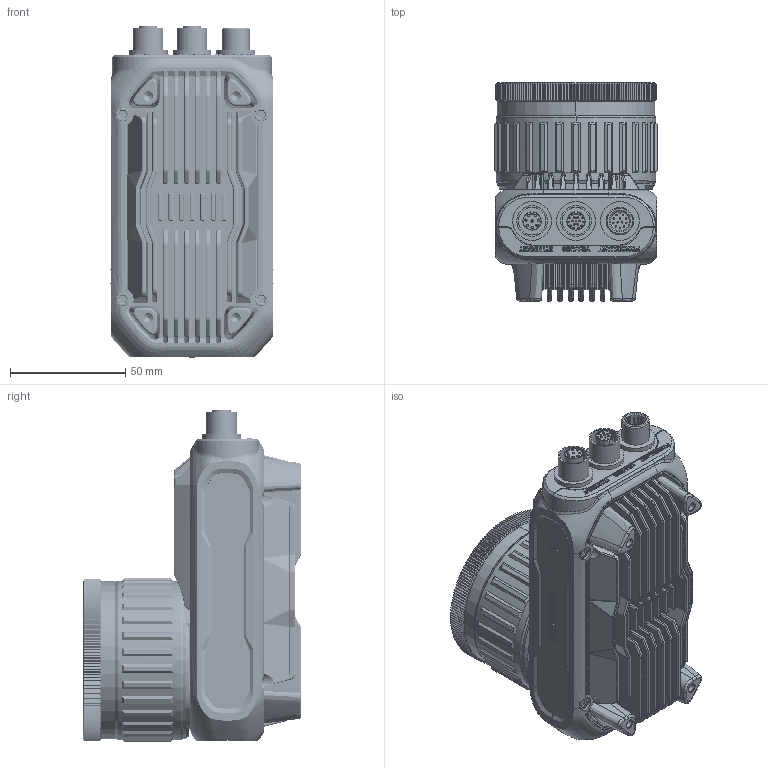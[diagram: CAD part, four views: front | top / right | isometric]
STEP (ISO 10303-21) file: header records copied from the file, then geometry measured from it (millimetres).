
FILE_DESCRIPTION((''),'2;1');
FILE_NAME('R-7000-A01-14_ASM','2022-11-15T09:50:43',('sz4067'),(''),'CREO PARAMETRIC BY PTC INC, 2020354','CREO PARAMETRIC BY PTC INC, 2020354','');
FILE_SCHEMA(('CONFIG_CONTROL_DESIGN'));
Length unit declared in the file: millimetre
Products named in the file (26): R-7000-M01-A01; R-7000-M02-A01; R-7000-M03-A01; R-7000-M04-01-A01; R-7000-M04-02-A01; R-7000-M13-A01; R-7000-M14-A01; R-7000-M15; M3X18; M2-5X5-CHENTOU; M12-B-P12-M12X1; M12-O; M12X1-2-4; M12-B-P12-M12X1_ASM; M12-B-S17-M12X1; M12-B-S17-M12X1_ASM; M12-B-S8-M12X1; M12-B-S8-M12X1_ASM; R-7000-M06-A01-03; R-7000-M08-A02; R-7000-M07-A02; R-7000-M09-A02; R-7000-ZP1-A01_ASM; R-7000-A01-01_ASM; R-7000-BQ2-A01; R-7000-A01-14_ASM
Assembly tree (47 placements, depth 4):
  R-7000-A01-14_ASM
    R-7000-A01-01_ASM
      R-7000-M01-A01
      R-7000-M02-A01
      R-7000-M03-A01
      R-7000-M04-01-A01
      R-7000-M04-02-A01
      R-7000-M13-A01  x2
      R-7000-M14-A01
      R-7000-M15  x8
      M3X18  x4
      M2-5X5-CHENTOU  x8
      M12-B-P12-M12X1_ASM
        M12-B-P12-M12X1
        M12-O
        M12X1-2-4
      M12-B-S17-M12X1_ASM
        M12-B-S17-M12X1
        M12-O
        M12X1-2-4
      M12-B-S8-M12X1_ASM
        M12-B-S8-M12X1
        M12-O
        M12X1-2-4
      R-7000-ZP1-A01_ASM
        R-7000-M06-A01-03
        R-7000-M08-A02
        R-7000-M07-A02
        R-7000-M09-A02
    R-7000-BQ2-A01
Bounding box: 70.71 x 94.5 x 143.86 mm (x, y, z)
Volume: 191330.9 mm3; surface area: 192693.5 mm2
Topology: 42 solids, 79 shells, 5461 faces, 14199 edges, 9115 vertices
Faces by surface type: plane 2637, cylinder 1551, extrusion 495, cone 270, bspline 263, torus 201, sphere 44
Entity records: 178533 total; most frequent: CARTESIAN_POINT 66517, ORIENTED_EDGE 24288, DIRECTION 21116, EDGE_CURVE 12218, VERTEX_POINT 7877, AXIS2_PLACEMENT_3D 7188, VECTOR 6740, LINE 6370
